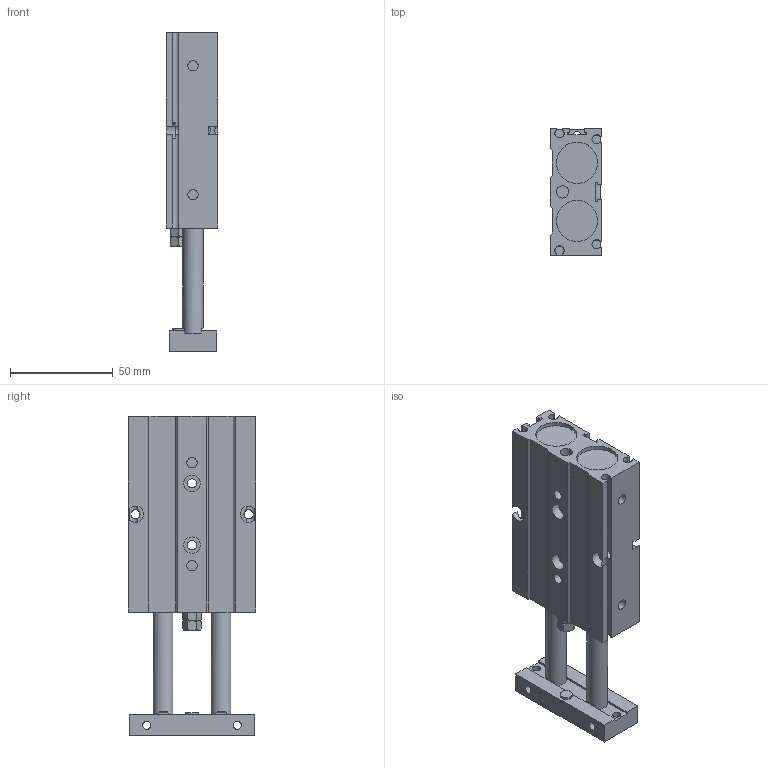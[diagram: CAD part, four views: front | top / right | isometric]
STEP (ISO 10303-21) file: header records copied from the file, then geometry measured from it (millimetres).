
FILE_DESCRIPTION((''),'2;1');
FILE_NAME('I:\3D電子目錄\氣缸\TD\TD20\TD20\TD20x40.stp','2007-08-06T09:47:01',('Administrator'),(''),'Autodesk Inventor 2008','Autodesk Inventor 2008','');
FILE_SCHEMA(('AUTOMOTIVE_DESIGN { 1 0 10303 214 1 1 1 1 }'));
Length unit declared in the file: millimetre
Products named in the file (1): TD20X40
Bounding box: 25 x 62 x 155 mm (x, y, z)
Volume: 149067.7 mm3; surface area: 36334.1 mm2
Topology: 1 solids, 3 shells, 197 faces, 503 edges, 329 vertices
Faces by surface type: plane 136, cylinder 48, cone 7, bspline 4, torus 2
Full cylindrical faces by diameter (mm): 4 x4, 4.5 x4, 5 x4, 6 x2, 7 x2, 8 x6, 9 x2, 10 x2, 20 x4
Entity records: 6108 total; most frequent: CARTESIAN_POINT 1453, DIRECTION 927, ORIENTED_EDGE 916, EDGE_CURVE 458, VERTEX_POINT 323, AXIS2_PLACEMENT_3D 310, VECTOR 307, LINE 307
